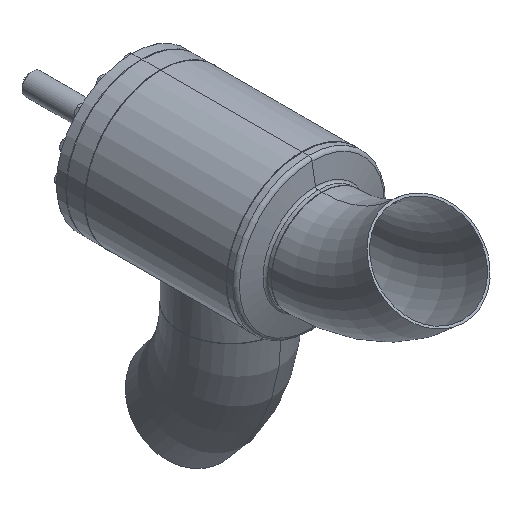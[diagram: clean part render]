
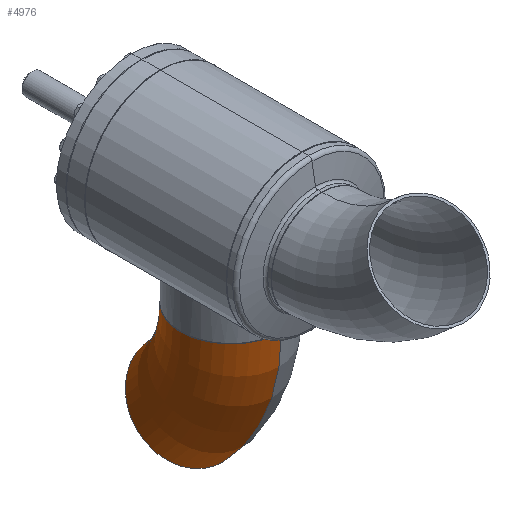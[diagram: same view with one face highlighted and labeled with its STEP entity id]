
A CAD part, isometric view. The second image highlights one B-rep face of the part: STEP entity #4976.
In plain terms, the highlighted toroidal (fillet/blend) face has major radius 610 mm and minor radius 203.2 mm.
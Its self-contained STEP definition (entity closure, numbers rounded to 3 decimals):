
#23 = ORIENTED_EDGE ( 'NONE', *, *, #5188, .T. ) ;
#38 = CARTESIAN_POINT ( 'NONE',  ( 0., -203.2, 0. ) ) ;
#574 = CIRCLE ( 'NONE', #575, 406.8 ) ;
#575 = AXIS2_PLACEMENT_3D ( 'NONE', #576, #577, #578 ) ;
#576 = CARTESIAN_POINT ( 'NONE',  ( 0., -610., 0. ) ) ;
#577 = DIRECTION ( 'NONE',  ( 0., 0., 1. ) ) ;
#578 = DIRECTION ( 'NONE',  ( 1., 0., 0. ) ) ;
#2098 = CARTESIAN_POINT ( 'NONE',  ( 287.651, -322.349, 0. ) ) ;
#2190 = CIRCLE ( 'NONE', #2191, 203.2 ) ;
#2191 = AXIS2_PLACEMENT_3D ( 'NONE', #2192, #2193, #2197 ) ;
#2192 = CARTESIAN_POINT ( 'NONE',  ( 431.335, -178.665, 0. ) ) ;
#2193 = DIRECTION ( 'NONE',  ( 0.707, -0.707, 0. ) ) ;
#2197 = DIRECTION ( 'NONE',  ( 0., 0., -1. ) ) ;
#2730 = CIRCLE ( 'NONE', #2731, 813.2 ) ;
#2731 = AXIS2_PLACEMENT_3D ( 'NONE', #2732, #2733, #2734 ) ;
#2732 = CARTESIAN_POINT ( 'NONE',  ( 0., -610., 0. ) ) ;
#2733 = DIRECTION ( 'NONE',  ( 0., 0., 1. ) ) ;
#2734 = DIRECTION ( 'NONE',  ( 1., 0., 0. ) ) ;
#2741 = VERTEX_POINT ( 'NONE', #7868 ) ;
#4933 = VERTEX_POINT ( 'NONE', #5689 ) ;
#4976 = ADVANCED_FACE ( 'NONE', ( #6048 ), #6049, .T. ) ;
#5093 = ORIENTED_EDGE ( 'NONE', *, *, #7136, .F. ) ;
#5188 = EDGE_CURVE ( 'NONE', #4933, #9382, #7728, .T. ) ;
#5298 = ORIENTED_EDGE ( 'NONE', *, *, #7408, .T. ) ;
#5431 = EDGE_CURVE ( 'NONE', #6956, #9382, #574, .T. ) ;
#5556 = ORIENTED_EDGE ( 'NONE', *, *, #5431, .F. ) ;
#5689 = CARTESIAN_POINT ( 'NONE',  ( 0., 203.2, 0. ) ) ;
#6048 = FACE_OUTER_BOUND ( 'NONE', #8380, .T. ) ;
#6049 = TOROIDAL_SURFACE ( 'NONE', #6050, 610., 203.2 ) ;
#6050 = AXIS2_PLACEMENT_3D ( 'NONE', #6051, #6052, #6053 ) ;
#6051 = CARTESIAN_POINT ( 'NONE',  ( 0., -610., 0. ) ) ;
#6052 = DIRECTION ( 'NONE',  ( 0., 0., 1. ) ) ;
#6053 = DIRECTION ( 'NONE',  ( 1., 0., 0. ) ) ;
#6956 = VERTEX_POINT ( 'NONE', #2098 ) ;
#7136 = EDGE_CURVE ( 'NONE', #2741, #6956, #2190, .T. ) ;
#7408 = EDGE_CURVE ( 'NONE', #2741, #4933, #2730, .T. ) ;
#7728 = CIRCLE ( 'NONE', #7729, 203.2 ) ;
#7729 = AXIS2_PLACEMENT_3D ( 'NONE', #7730, #7731, #7732 ) ;
#7730 = CARTESIAN_POINT ( 'NONE',  ( 0., 0., 0. ) ) ;
#7731 = DIRECTION ( 'NONE',  ( 1., 0., 0. ) ) ;
#7732 = DIRECTION ( 'NONE',  ( 0., 0., -1. ) ) ;
#7868 = CARTESIAN_POINT ( 'NONE',  ( 575.019, -34.981, 0. ) ) ;
#8380 = EDGE_LOOP ( 'NONE', ( #5093, #5298, #23, #5556 ) ) ;
#9382 = VERTEX_POINT ( 'NONE', #38 ) ;
